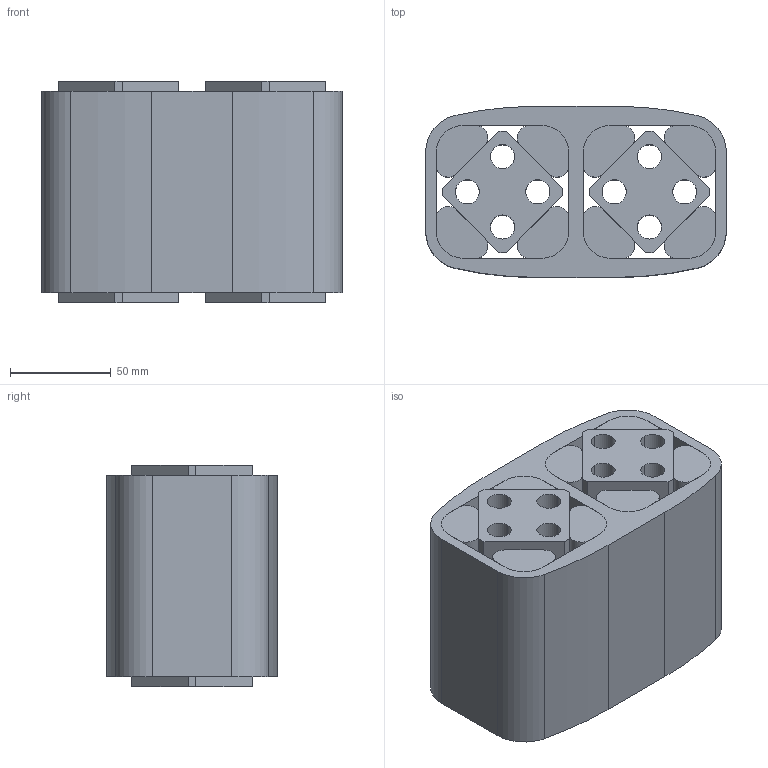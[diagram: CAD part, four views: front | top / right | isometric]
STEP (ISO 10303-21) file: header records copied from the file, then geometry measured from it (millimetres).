
FILE_DESCRIPTION((''),'2;1');
FILE_NAME('D:\ROSTA\Gummifederelemente\3D\DO-A45x100_01041014.stp','2005-02-11T10:40:46',('Administrator'),(''),'Autodesk Inventor 8','Autodesk Inventor 8','');
FILE_SCHEMA(('AUTOMOTIVE_DESIGN { 1 0 10303 214 1 1 1 1 }'));
Length unit declared in the file: millimetre
Products named in the file (4): 3.4.6554-004; 3.4.6554-005; 3.4.6554-007; 3.4.6554-006
Assembly tree (11 placements, depth 2):
  3.4.6554-004
    3.4.6554-005
    3.4.6554-007  x8
    3.4.6554-006  x2
Bounding box: 149.4 x 85 x 110 mm (x, y, z)
Volume: 1060279.9 mm3; surface area: 247349.4 mm2
Topology: 11 solids, 11 shells, 130 faces, 324 edges, 216 vertices
Faces by surface type: plane 74, cylinder 56
Entity records: 1959 total; most frequent: DIRECTION 346, CARTESIAN_POINT 321, ORIENTED_EDGE 300, EDGE_CURVE 150, AXIS2_PLACEMENT_3D 125, VERTEX_POINT 100, VECTOR 96, LINE 96
